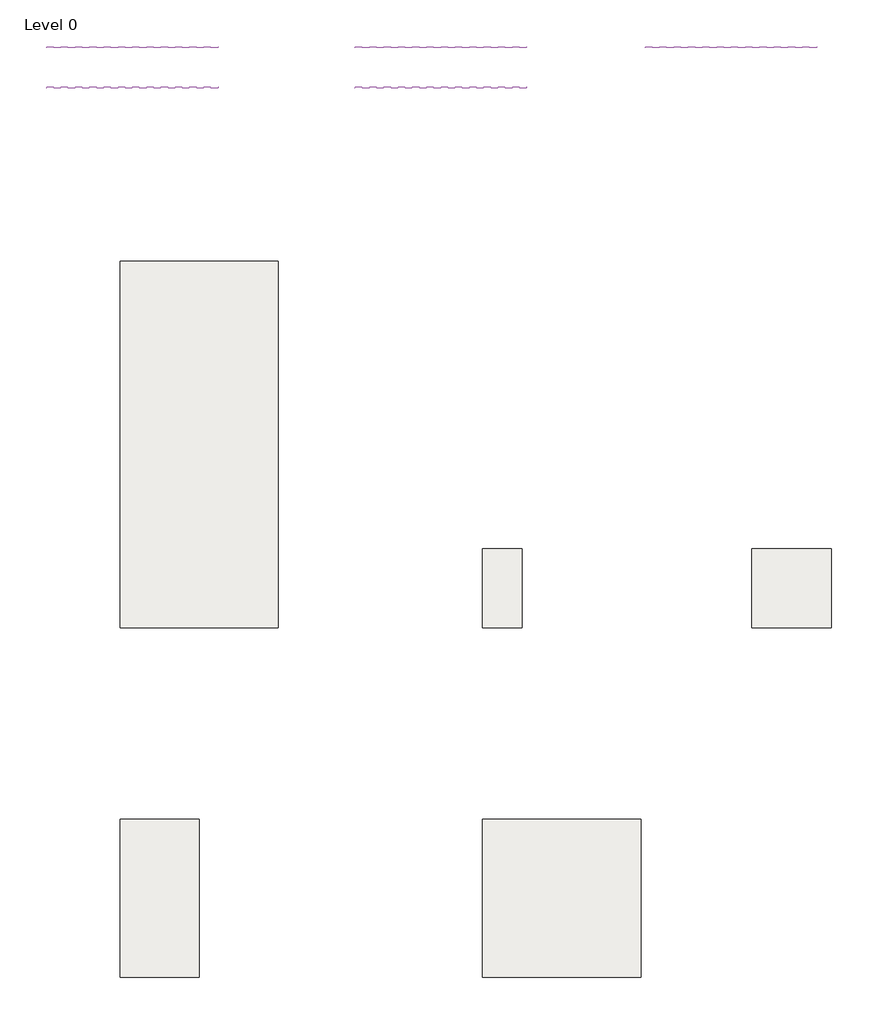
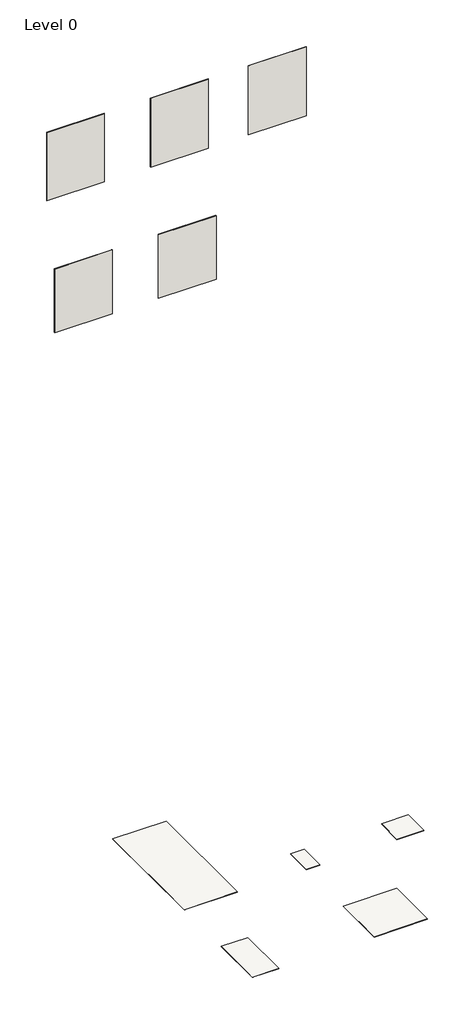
# One storey: 5 slabs, 5 walls.
"""IFC4 building model written with IfcOpenShell, lengths in millimetres."""

from ifc_helpers import new_model, si_unit, frame, origin, place, context, project, spatial, polyline, outline, extrude, element, save

model = new_model("IFC4")

# Units and contexts
model_context = context("Model", 3, world=origin())
ifc_project = project(units=[si_unit("LENGTHUNIT", "METRE", prefix="MILLI")], contexts=[model_context])

# Site, building, storey
site = spatial("IfcSite", under=ifc_project)
building = spatial("IfcBuilding", under=site)
storey = spatial("IfcBuildingStorey", under=building, Name="Level 0", Elevation=0.0)

# Slabs
placement = place(None, origin())
element("IfcSlab", 1, ObjectType="Floor_Tiles_Refin-Creos-Coral-120x278 NB03", at=placement, inside=storey, context=model_context, shape_type="SweptSolid", body=[
    extrude(outline(polyline([(7674.3752062, 6519.4623743), (7674.3752062, 3739.4623743), (6474.3752062, 3739.4623743), (6474.3752062, 6519.4623743), (7674.3752062, 6519.4623743)])), frame((0.0, 0.0, -7.0), z_axis=(0.0, 0.0, 1.0), x_axis=(1.0, 0.0, 0.0)), (0.0, 0.0, 1.0), 7.0),
])
element("IfcSlab", 2, ObjectType="Floor_Tiles_Refin-Creos-Coral-Soft-30x60 ND63", at=placement, inside=storey, context=model_context, shape_type="SweptSolid", body=[
    extrude(outline(polyline([(9524.3752062, 4338.4192064), (9524.3752062, 3738.4192064), (9224.3752062, 3738.4192064), (9224.3752062, 4338.4192064), (9524.3752062, 4338.4192064)])), frame((0.0, 0.0, -10.0), z_axis=(0.0, 0.0, 1.0), x_axis=(1.0, 0.0, 0.0)), (0.0, 0.0, 1.0), 10.0),
])
element("IfcSlab", 3, ObjectType="Floor_Tiles_Refin-Creos-Coral-Soft-60x60 ND60", at=placement, inside=storey, context=model_context, shape_type="SweptSolid", body=[
    extrude(outline(polyline([(11867.3924055, 4338.4192064), (11867.3924055, 3738.4192064), (11267.3924055, 3738.4192064), (11267.3924055, 4338.4192064), (11867.3924055, 4338.4192064)])), frame((0.0, 0.0, -10.0), z_axis=(0.0, 0.0, 1.0), x_axis=(1.0, 0.0, 0.0)), (0.0, 0.0, 1.0), 10.0),
])
element("IfcSlab", 4, ObjectType="Floor_Tiles_Refin-Creos-Coral-Soft-60x120 ND54", at=placement, inside=storey, context=model_context, shape_type="SweptSolid", body=[
    extrude(outline(polyline([(7074.3752062, 2289.4623743), (7074.3752062, 1089.4623743), (6474.3752062, 1089.4623743), (6474.3752062, 2289.4623743), (7074.3752062, 2289.4623743)])), frame((0.0, 0.0, -10.0), z_axis=(0.0, 0.0, 1.0), x_axis=(1.0, 0.0, 0.0)), (0.0, 0.0, 1.0), 10.0),
])
element("IfcSlab", 5, ObjectType="Floor_Tiles_Refin-Creos-Coral-Soft-120x120 ND57", at=placement, inside=storey, context=model_context, shape_type="SweptSolid", body=[
    extrude(outline(polyline([(10424.3752062, 2289.4623743), (10424.3752062, 1089.4623743), (9224.3752062, 1089.4623743), (9224.3752062, 2289.4623743), (10424.3752062, 2289.4623743)])), frame((0.0, 0.0, -10.0), z_axis=(0.0, 0.0, 1.0), x_axis=(1.0, 0.0, 0.0)), (0.0, 0.0, 1.0), 10.0),
])

# Walls
element("IfcWall", 6, ObjectType="Wall_Tiles_Refin-Creos-Coral-Soft-30x60 ND63", at=placement, inside=storey, context=model_context, shape_type="SweptSolid", body=[
    extrude(outline(polyline([(9557.3752062, 8132.3838631), (8257.3752062, 8132.3838631), (8257.3752062, 8142.3838631), (9557.3752062, 8142.3838631), (9557.3752062, 8132.3838631)])), frame((0.0, 0.0, 14387.6770443), z_axis=(0.0, 0.0, 1.0), x_axis=(1.0, 0.0, 0.0)), (0.0, 0.0, 1.0), 1641.7417352),
])
element("IfcWall", 7, ObjectType="Wall_Tiles_Refin-Creos-Coral-Soft-60x60 ND60", at=placement, inside=storey, context=model_context, shape_type="SweptSolid", body=[
    extrude(outline(polyline([(11757.3752062, 8132.3838631), (10457.3752062, 8132.3838631), (10457.3752062, 8142.3838631), (11757.3752062, 8142.3838631), (11757.3752062, 8132.3838631)])), frame((0.0, 0.0, 14387.6770443), z_axis=(0.0, 0.0, 1.0), x_axis=(1.0, 0.0, 0.0)), (0.0, 0.0, 1.0), 1641.7417352),
])
element("IfcWall", 8, ObjectType="Wall_Tiles_Refin-Creos-Coral-120x278 NB03", at=placement, inside=storey, context=model_context, shape_type="SweptSolid", body=[
    extrude(outline(polyline([(7217.3752062, 8133.8838631), (5917.3752062, 8133.8838631), (5917.3752062, 8140.8838631), (7217.3752062, 8140.8838631), (7217.3752062, 8133.8838631)])), frame((0.0, 0.0, 14403.7267346), z_axis=(0.0, 0.0, 1.0), x_axis=(1.0, 0.0, 0.0)), (0.0, 0.0, 1.0), 1625.692045),
])
element("IfcWall", 9, ObjectType="Wall_Tiles_Refin-Creos-Coral-Soft-60x120 ND54", at=placement, inside=storey, context=model_context, shape_type="SweptSolid", body=[
    extrude(outline(polyline([(7217.3752062, 7827.3838631), (5917.3752062, 7827.3838631), (5917.3752062, 7837.3838631), (7217.3752062, 7837.3838631), (7217.3752062, 7827.3838631)])), frame((0.0, 0.0, 11452.5436262), z_axis=(0.0, 0.0, 1.0), x_axis=(1.0, 0.0, 0.0)), (0.0, 0.0, 1.0), 1513.1985566),
])
element("IfcWall", 10, ObjectType="Wall_Tiles_Refin-Creos-Coral-Soft-120x120 ND57", at=placement, inside=storey, context=model_context, shape_type="SweptSolid", body=[
    extrude(outline(polyline([(9557.3752062, 7827.3838631), (8257.3752062, 7827.3838631), (8257.3752062, 7837.3838631), (9557.3752062, 7837.3838631), (9557.3752062, 7827.3838631)])), frame((0.0, 0.0, 11452.5436262), z_axis=(0.0, 0.0, 1.0), x_axis=(1.0, 0.0, 0.0)), (0.0, 0.0, 1.0), 1513.1985566),
])

save(model, "model.ifc")
